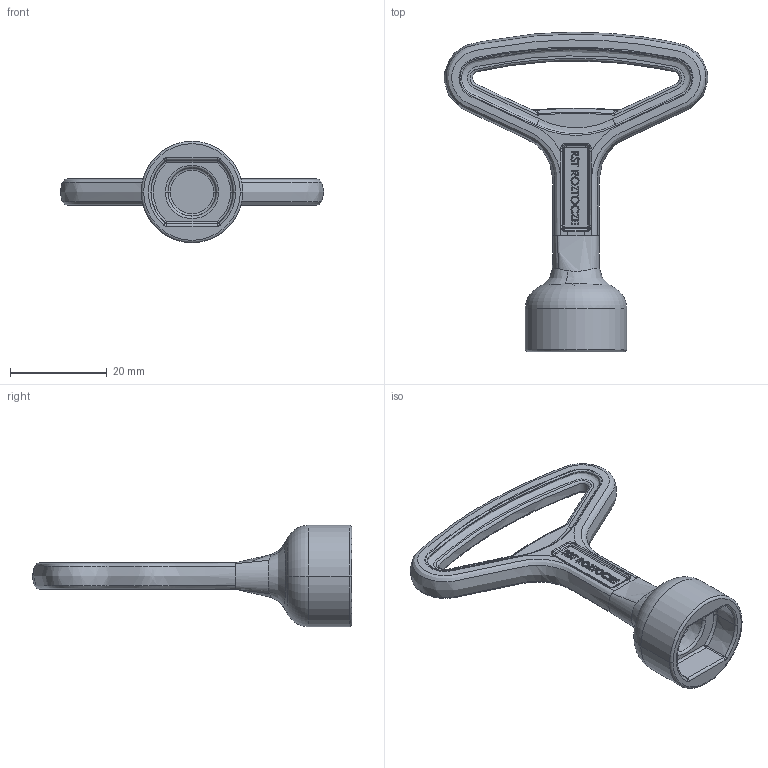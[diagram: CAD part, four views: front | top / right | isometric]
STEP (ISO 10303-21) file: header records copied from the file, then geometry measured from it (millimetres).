
FILE_DESCRIPTION (( 'STEP AP203' ), '1' );
FILE_NAME ('2.KL-X.010.STEP', '2020-12-08T08:53:57', ( 'U¿ytkownik systemu Windows' ), ( '' ), 'SwSTEP 2.0', 'SolidWorks 2020', '' );
FILE_SCHEMA (( 'CONFIG_CONTROL_DESIGN' ));
Length unit declared in the file: millimetre
Products named in the file (1): 2.KL-X.010
Bounding box: 54.55 x 66.1 x 21 mm (x, y, z)
Volume: 7421.6 mm3; surface area: 4784.9 mm2
Topology: 1 solids, 1 shells, 430 faces, 1100 edges, 698 vertices
Faces by surface type: plane 191, bspline 160, torus 33, cylinder 27, cone 15, sphere 4
Entity records: 35271 total; most frequent: CARTESIAN_POINT 25937, ORIENTED_EDGE 2184, DIRECTION 1443, EDGE_CURVE 1092, VERTEX_POINT 698, VECTOR 591, LINE 591, EDGE_LOOP 466
